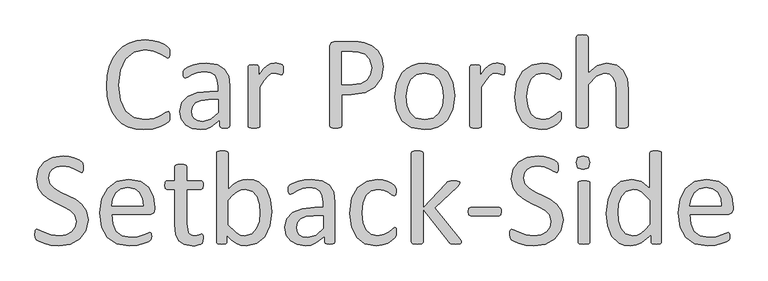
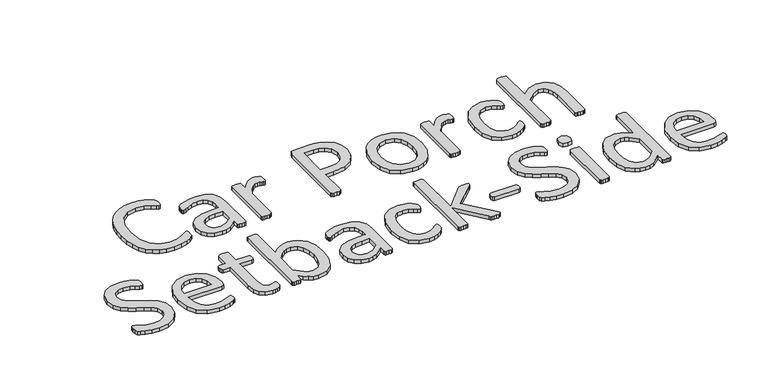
"""IFC4 building model written with IfcOpenShell, lengths in millimetres: proxy geometry, Marker-Setback Bldg Distance : Setback-Car Porch-Side."""

from ifc_helpers import new_model, si_unit, origin, origin_with_axes, place, context, project, spatial, polyline, outline, extrude, source, transform, mapped, element, save


def generic_models_6b0d4a80(model_context):
    return source(origin(), model_context, "Body", "SweptSolid", [
        extrude(outline(polyline([(3352.0395191, 73.9609654), (3351.8887316, 69.5579718), (3351.3458968, 66.2708053), (3350.3205421, 63.7677336), (3348.1190454, 61.1741894), (3341.5748699, 56.5299359), (3329.1801414, 50.4381229), (3312.1411593, 45.4319795), (3291.1213886, 43.3812701), (3272.4086658, 45.0323927), (3255.5958649, 49.9857605), (3240.9016277, 58.1584404), (3228.5445961, 69.4674993), (3218.6529392, 83.8601616), (3211.3548265, 101.2836516), (3206.8538211, 121.6701151), (3205.353486, 144.9516977), (3206.9819904, 168.8590482), (3211.8675039, 190.0371458), (3219.700912, 208.3352031), (3230.1731005, 223.6024326), (3243.1182033, 235.7257437), (3258.370354, 244.5920458), (3275.6656747, 250.0203941), (3294.7402874, 251.8298435), (3311.809427, 250.1711816), (3327.2199045, 245.9792904), (3339.795578, 240.1287373), (3347.3952656, 234.6702315), (3350.1395972, 231.4735375), (3351.1649519, 228.9704658), (3351.7982592, 225.5626694), (3352.0395191, 220.8882584), (3351.7077867, 215.7313276), (3350.742747, 212.1727437), (3349.2348725, 210.0617194), (3347.0936907, 209.3680971), (3340.8510902, 212.3838461), (3330.507071, 219.018494), (3315.1569084, 225.6531419), (3293.4736728, 228.6688909), (3268.4429558, 223.2103852), (3249.1723195, 207.1364428), (3236.7775909, 181.2613161), (3232.3745973, 146.3389422), (3236.596646, 111.8990882), (3248.6596421, 86.8985287), (3267.960436, 71.6991536), (3293.8958777, 66.5422227), (3315.2775383, 69.5278143), (3330.8388034, 76.1926197), (3341.393925, 82.857425), (3347.8777854, 85.8430166), (3349.8078648, 85.3604967), (3351.0744794, 83.5510473), (3351.7982592, 79.8718335), (3352.0395191, 73.9609654)])), origin_with_axes(), (0.0, 0.0, 1.0), 10.0),
        extrude(outline(polyline([(3491.0052347, 51.8856824), (3489.6783051, 49.0810358), (3486.0594063, 47.6937913), (3479.3041284, 47.2414289), (3472.4583781, 47.6937913), (3468.7490068, 49.0810358), (3467.6030222, 51.8856824), (3467.6030222, 65.758128), (3447.2768737, 49.7143431), (3435.7265549, 44.9645384), (3423.5127713, 43.3812701), (3403.5786701, 46.2462317), (3388.4094525, 54.5395416), (3378.6685831, 67.8691523), (3375.2004717, 85.8430166), (3379.9955127, 106.289795), (3393.7473283, 120.7050754), (3415.6718238, 129.2999602), (3444.8642744, 132.1649218), (3463.9841233, 132.1649218), (3463.9841233, 143.6850831), (3462.2953039, 158.7638283), (3456.8669556, 169.6808398), (3447.1864012, 176.2551727), (3432.5600184, 178.486827), (3415.8226112, 176.0742277), (3402.8548904, 170.7665094), (3393.5362258, 165.4587911), (3387.9872476, 163.0461919), (3385.8159083, 163.6794992), (3384.2175613, 165.6095786), (3383.2223641, 168.9269025), (3382.9207892, 173.3600536), (3383.4636241, 179.6931266), (3386.1174832, 184.1262777), (3393.3552809, 188.6499012), (3405.1770171, 193.1132098), (3419.8033999, 196.4606912), (3435.8170273, 197.7876208), (3461.4508941, 194.3798244), (3478.5501912, 184.4278526), (3488.0498006, 168.1729653), (3491.0052347, 145.4945325), (3491.0052347, 51.8856824)]), holes=[polyline([(3463.9841233, 112.8641279), (3442.5119902, 112.8641279), (3424.5984409, 111.084836), (3411.9624525, 105.8374327), (3404.5738673, 97.5139653), (3402.2215831, 86.3255364), (3403.9104025, 76.584667), (3408.9768609, 69.0754519), (3417.0892258, 64.280411), (3427.9157649, 62.682064), (3446.251519, 67.7786798), (3463.9841233, 83.3701024), (3463.9841233, 112.8641279)])]), origin_with_axes(), (0.0, 0.0, 1.0), 10.0),
        extrude(outline(polyline([(3614.5303152, 182.3469857), (3614.3795278, 176.8583225), (3613.776378, 173.2997386), (3612.6605508, 171.2791868), (3610.7907864, 170.5855645), (3607.8655099, 171.2791868), (3603.9751936, 172.6664313), (3599.1198377, 173.9933609), (3593.299442, 174.6266682), (3585.9410144, 172.9680062), (3578.3714843, 167.539658), (3570.0781744, 157.5273712), (3560.4880925, 142.2375235), (3560.4880925, 51.9459974), (3559.8246277, 49.8952881), (3557.6834459, 48.4477285), (3553.6121847, 47.5430038), (3546.9172218, 47.2414289), (3540.3428889, 47.5430038), (3536.1811553, 48.4477285), (3534.0399734, 49.8952881), (3533.4669811, 51.9459974), (3533.4669811, 189.2228935), (3533.949501, 191.2736029), (3535.9097379, 192.7814774), (3539.6794241, 193.6862021), (3545.7712372, 193.927462), (3551.7424203, 193.6862021), (3555.4216341, 192.7814774), (3557.321556, 191.2736029), (3557.8945483, 189.2228935), (3557.8945483, 169.1983199), (3568.32904, 183.4929704), (3577.5873895, 192.2084851), (3586.2124318, 196.5813212), (3594.8676315, 197.7876208), (3599.2706251, 197.5765184), (3604.4577135, 196.7622661), (3609.3432269, 195.4051791), (3612.4192909, 193.927462), (3613.6255905, 192.5402175), (3614.1684253, 190.8212405), (3614.4700003, 187.775334), (3614.5303152, 182.3469857)])), origin_with_axes(), (0.0, 0.0, 1.0), 10.0),
        extrude(outline(polyline([(3846.1398412, 189.5847834), (3841.1940128, 162.623987), (3827.0199923, 142.1470511), (3804.4018746, 129.0587003), (3772.4349348, 124.4446042), (3749.6358721, 124.4446042), (3749.6358721, 52.1872573), (3748.9422498, 50.0460755), (3746.740753, 48.5683585), (3742.6393343, 47.6334763), (3736.1253164, 47.2414289), (3729.6112985, 47.6334763), (3725.4495648, 48.5683585), (3723.248068, 50.015918), (3722.6147607, 52.1872573), (3722.6147607, 236.5701534), (3725.8717697, 245.3459831), (3733.1698823, 247.9696848), (3776.2347786, 247.9696848), (3788.7199796, 247.4268499), (3802.8638426, 245.1047232), (3819.5107772, 238.5002328), (3833.8657427, 226.5880241), (3842.9431473, 210.1823493), (3846.1398412, 189.5847834)]), holes=[polyline([(3819.1187299, 187.4737591), (3814.4744764, 207.1062853), (3802.9844725, 218.8375491), (3788.8406095, 223.75322), (3774.6062741, 224.8087322), (3749.6358721, 224.8087322), (3749.6358721, 147.6055568), (3774.0031243, 147.6055568), (3794.3594303, 150.5911484), (3807.9604584, 158.8543007), (3816.2839258, 171.4902892), (3819.1187299, 187.4737591)])]), origin_with_axes(), (0.0, 0.0, 1.0), 10.0),
        extrude(outline(polyline([(4012.1266682, 122.09232), (4007.6633596, 90.4571126), (3994.3035914, 65.5470256), (3984.2913046, 56.2359004), (3972.0473635, 49.2318233), (3957.6245437, 44.8439084), (3941.0756209, 43.3812701), (3911.2197054, 48.538201), (3889.9888322, 63.5264737), (3877.3226863, 87.4112061), (3873.1609526, 119.2575159), (3877.5639462, 150.8927233), (3890.833242, 175.7726528), (3900.8078319, 185.0460811), (3912.9989974, 191.9973827), (3927.4067384, 196.3400613), (3944.031055, 197.7876208), (3973.9171279, 192.6306899), (3995.1480011, 177.6424172), (4007.8744621, 153.7576849), (4012.1266682, 122.09232)]), holes=[polyline([(3985.1055568, 120.2828706), (3983.02469, 141.2423264), (3976.1789397, 158.5527258), (3963.3016913, 170.3141471), (3943.0057003, 174.6266682), (3923.7350639, 170.676037), (3910.4657682, 159.5177655), (3902.7152932, 142.448626), (3900.182064, 120.8860204), (3902.2629308, 99.8059346), (3909.1689961, 82.5558501), (3922.136717, 70.8547439), (3942.4025505, 66.5422227), (3961.6128718, 70.492854), (3974.9726401, 81.5606529), (3982.6628001, 98.5694775), (3985.1055568, 120.2828706)])]), origin_with_axes(), (0.0, 0.0, 1.0), 10.0),
        extrude(outline(polyline([(4127.9314312, 182.3469857), (4127.7806437, 176.8583225), (4127.1774939, 173.2997386), (4126.0616668, 171.2791868), (4124.1919024, 170.5855645), (4121.2666258, 171.2791868), (4117.3763096, 172.6664313), (4112.5209536, 173.9933609), (4106.700558, 174.6266682), (4099.3421303, 172.9680062), (4091.7726003, 167.539658), (4083.4792904, 157.5273712), (4073.8892085, 142.2375235), (4073.8892085, 51.9459974), (4073.2257437, 49.8952881), (4071.0845619, 48.4477285), (4067.0133007, 47.5430038), (4060.3183378, 47.2414289), (4053.7440049, 47.5430038), (4049.5822712, 48.4477285), (4047.4410894, 49.8952881), (4046.8680971, 51.9459974), (4046.8680971, 189.2228935), (4047.3506169, 191.2736029), (4049.3108538, 192.7814774), (4053.0805401, 193.6862021), (4059.1723532, 193.927462), (4065.1435363, 193.6862021), (4068.8227501, 192.7814774), (4070.722672, 191.2736029), (4071.2956643, 189.2228935), (4071.2956643, 169.1983199), (4081.730156, 183.4929704), (4090.9885055, 192.2084851), (4099.6135477, 196.5813212), (4108.2687475, 197.7876208), (4112.6717411, 197.5765184), (4117.8588294, 196.7622661), (4122.7443429, 195.4051791), (4125.8204069, 193.927462), (4127.0267065, 192.5402175), (4127.5695413, 190.8212405), (4127.8711162, 187.775334), (4127.9314312, 182.3469857)])), origin_with_axes(), (0.0, 0.0, 1.0), 10.0),
        extrude(outline(polyline([(4259.1768293, 74.98632), (4259.0260418, 70.7642714), (4258.483207, 67.7485223), (4257.5784823, 65.3057656), (4255.165883, 61.6868668), (4248.6820226, 55.8061562), (4238.3983184, 49.5635557), (4226.0035899, 45.1002471), (4212.1311443, 43.3812701), (4185.9544427, 48.3874135), (4166.8647513, 63.0137964), (4155.1334875, 86.5969538), (4151.0923838, 118.835311), (4156.0382122, 154.5719371), (4169.5789254, 179.0296618), (4189.8146014, 193.1735248), (4215.0262634, 197.7876208), (4227.7527243, 196.4305337), (4239.0919407, 192.8719499), (4248.3201327, 187.8054915), (4254.1706859, 182.8898206), (4256.6737576, 179.6629691), (4257.8197422, 177.0995824), (4258.422892, 173.9330459), (4258.5736795, 169.4998948), (4257.2165924, 161.4780024), (4253.9294259, 159.1860331), (4248.7121801, 161.5986324), (4241.26328, 166.9063507), (4230.316111, 172.214069), (4215.2072083, 174.6266682), (4199.336829, 171.1283993), (4187.6734196, 160.6335927), (4180.5034763, 143.4739807), (4178.1134952, 119.9812957), (4180.5864094, 96.6393981), (4187.884522, 79.8718335), (4199.7364158, 69.8293892), (4215.8103581, 66.5422227), (4230.8589458, 69.5881293), (4242.0775322, 76.2830921), (4250.0692672, 82.8875825), (4255.1357256, 85.8430166), (4256.9150175, 85.2700243), (4258.2117896, 83.3399449), (4258.9657268, 79.901991), (4259.1768293, 74.98632)])), origin_with_axes(), (0.0, 0.0, 1.0), 10.0),
        extrude(outline(polyline([(4413.5831799, 52.0063124), (4412.9197151, 49.955603), (4410.7785333, 48.477886), (4406.7072721, 47.5430038), (4400.1329392, 47.2414289), (4393.4379764, 47.5430038), (4389.3667152, 48.4477285), (4387.2255334, 49.8952881), (4386.5620686, 52.0063124), (4386.5620686, 132.5871266), (4384.7827766, 151.5260306), (4379.6258458, 163.9207591), (4370.8500161, 171.8823366), (4358.3949726, 174.6266682), (4340.0893759, 167.9015478), (4320.9393695, 148.1483917), (4320.9393695, 52.0063124), (4320.2759047, 49.8952881), (4318.1347229, 48.4477285), (4314.0634617, 47.5430038), (4307.3684989, 47.2414289), (4300.794166, 47.5430038), (4296.6324323, 48.477886), (4294.4912505, 49.955603), (4293.9182582, 52.0063124), (4293.9182582, 258.4644914), (4294.4912505, 260.6358307), (4296.6324323, 262.1738627), (4300.794166, 263.1087449), (4307.3684989, 263.4103198), (4314.0634617, 263.1087449), (4318.1347229, 262.1738627), (4320.2759047, 260.6056732), (4320.9393695, 258.4644914), (4320.9393695, 174.9885581), (4342.6527626, 192.1783276), (4364.6677306, 197.7876208), (4387.7080532, 193.0830523), (4402.8169559, 180.5073788), (4411.0801082, 162.0811522), (4413.5831799, 136.5679154), (4413.5831799, 52.0063124)])), origin_with_axes(), (0.0, 0.0, 1.0), 10.0),
        extrude(outline(polyline([(3162.8917395, -166.3294418), (3157.7046512, -191.6617337), (3143.2592133, -210.5101651), (3121.5156628, -222.1811139), (3094.6151813, -226.1015877), (3075.9175373, -224.5937131), (3060.5372172, -220.8843418), (3049.1980009, -216.3305608), (3042.8347704, -212.3196146), (3040.2110687, -207.6753611), (3039.366659, -199.7439411), (3039.6682339, -193.8632305), (3040.6031161, -190.0935442), (3042.1713056, -188.0729923), (3044.3728024, -187.5), (3050.5550879, -189.9125992), (3060.8387921, -195.1600026), (3075.9476948, -200.4677209), (3096.3643158, -202.9406351), (3112.4382582, -200.5883508), (3124.9536167, -193.9537029), (3133.0358241, -183.4588963), (3135.8706282, -169.2848758), (3131.8898394, -154.5680205), (3121.4251903, -143.8621114), (3106.6178625, -135.4180141), (3089.548723, -127.5770666), (3072.5700559, -118.740922), (3057.8230431, -107.3413906), (3047.2679215, -91.9007555), (3043.2268178, -70.7301973), (3047.8409138, -48.081922), (3060.6578472, -31.4349874), (3080.199901, -21.1814406), (3104.6877831, -17.6530143), (3118.2284963, -18.9497864), (3131.0454297, -22.3877403), (3141.7814963, -27.1827812), (3147.9637818, -31.4651449), (3149.8938612, -33.9682166), (3150.6779559, -36.1998708), (3151.1604758, -39.4870373), (3151.3112632, -44.4328657), (3151.0700033, -49.5596391), (3150.376381, -53.2991679), (3149.0494515, -55.5308222), (3147.0892146, -56.2546019), (3141.6608663, -53.9023177), (3132.6136192, -48.6247569), (3119.9474733, -43.2567236), (3103.5417985, -40.8139669), (3088.7947857, -43.0154637), (3078.420609, -48.8660168), (3072.2986385, -57.551374), (3070.2479291, -68.1969681), (3074.1684029, -82.7328785), (3084.633052, -93.52926), (3099.5006948, -102.1543023), (3116.4793619, -110.0555647), (3133.4881864, -118.8313944), (3148.3558292, -130.1102958), (3158.8807933, -145.4303009), (3162.8917395, -166.3294418)])), origin_with_axes(), (0.0, 0.0, 1.0), 10.0),
        extrude(outline(polyline([(3317.2980902, -141.7209296), (3314.3124987, -150.2253419), (3307.4667483, -152.7585711), (3216.9339623, -152.7585711), (3219.195774, -175.075114), (3226.7049891, -192.0839385), (3240.3964898, -203.00095), (3261.0242132, -206.8007938), (3278.1536677, -205.0215019), (3291.1817035, -201.0105557), (3300.1987932, -196.9996095), (3305.536669, -195.2203175), (3307.4064334, -195.7329949), (3308.7032054, -197.2408694), (3309.3666702, -200.045516), (3309.5777727, -204.4485096), (3309.4269852, -207.6753611), (3309.0349378, -210.1181178), (3308.2810006, -212.0783546), (3306.9239135, -213.7370166), (3302.0082426, -216.6622932), (3291.4229635, -220.8240269), (3276.3442183, -224.4730832), (3258.0687791, -226.1015877), (3228.604911, -221.2763892), (3207.3438803, -206.9214238), (3194.3158445, -183.0065339), (3189.9128509, -149.6221921), (3194.5269469, -117.0521025), (3207.8264002, -92.5642203), (3228.8160135, -77.0934278), (3256.3799597, -71.695237), (3284.1248508, -76.9124828), (3302.9732823, -90.9658733), (3313.8299788, -111.6840692), (3317.2980902, -137.0766761), (3317.2980902, -141.7209296)]), holes=[polyline([(3290.2769788, -133.4577773), (3288.3242813, -115.747791), (3281.6217791, -102.3050897), (3270.3353383, -93.8232956), (3254.6308252, -90.9960308), (3238.5568829, -94.4942997), (3227.006564, -103.8129642), (3219.7989238, -117.3536774), (3216.9339623, -133.4577773), (3290.2769788, -133.4577773)])]), origin_with_axes(), (0.0, 0.0, 1.0), 10.0),
        extrude(outline(polyline([(3429.2426944, -208.3689833), (3428.6395446, -215.9083559), (3426.7999377, -220.0097746), (3423.1207239, -222.4826888), (3417.5415882, -224.3826107), (3410.8767828, -225.6190678), (3403.8500875, -226.1015877), (3385.4841759, -223.1763111), (3372.9688174, -214.3401664), (3365.8516497, -199.3518937), (3363.6199954, -177.9099181), (3363.6199954, -94.8561896), (3345.2842413, -94.8561896), (3341.7558149, -92.5943778), (3340.4590428, -85.2661077), (3340.8209327, -80.7726416), (3341.7558149, -77.7267351), (3343.2938469, -76.0379156), (3345.4048712, -75.5553958), (3363.6199954, -75.5553958), (3363.6199954, -41.9599515), (3364.1929877, -39.9393996), (3366.3341695, -38.2807377), (3370.4959032, -37.255383), (3377.0702361, -36.9538081), (3383.765199, -37.255383), (3387.8364602, -38.2807377), (3389.977642, -39.9393996), (3390.6411068, -41.9599515), (3390.6411068, -75.5553958), (3424.417496, -75.5553958), (3426.4380478, -76.0379156), (3427.9760798, -77.7267351), (3428.9411195, -80.7726416), (3429.2426944, -85.2661077), (3427.9157649, -92.5943778), (3424.417496, -94.8561896), (3390.6411068, -94.8561896), (3390.6411068, -173.5069245), (3394.652053, -195.4917349), (3400.2538068, -201.07841), (3409.0371759, -202.9406351), (3415.0385165, -202.2470128), (3419.7129275, -200.7994533), (3423.2413538, -199.3217362), (3425.8650555, -198.5979565), (3428.2776547, -200.4677209), (3428.9411195, -203.4834699), (3429.2426944, -208.3689833)])), origin_with_axes(), (0.0, 0.0, 1.0), 10.0),
        extrude(outline(polyline([(3587.5092039, -147.0889629), (3583.6490451, -179.9606274), (3572.2796712, -204.8707145), (3553.8232871, -220.6430819), (3528.7624126, -226.1015877), (3516.6994165, -224.7746581), (3505.84272, -220.462137), (3495.2272833, -212.9529219), (3484.0086969, -202.0359104), (3484.0086969, -217.7781203), (3483.3452321, -219.7986722), (3481.2040503, -221.1557592), (3477.5248365, -221.939854), (3471.8853858, -222.2414289), (3466.3364076, -221.939854), (3462.5667213, -221.0954443), (3460.6064844, -219.6177272), (3460.1239646, -217.4765454), (3460.1239646, -11.0183664), (3460.6969569, -8.8470271), (3462.8381387, -7.3089951), (3466.9998724, -6.3741129), (3473.5742053, -6.072538), (3480.2691681, -6.3741129), (3484.3404293, -7.3089951), (3486.4816111, -8.8771846), (3487.1450759, -11.0183664), (3487.1450759, -94.7958746), (3498.8763397, -84.0296506), (3510.0044536, -76.9124828), (3520.8913076, -72.9316941), (3532.3813115, -71.695237), (3546.1406665, -73.2181903), (3557.7437609, -77.7870501), (3574.8732154, -94.1022523), (3584.4934548, -118.0774572), (3587.5092039, -147.0889629)]), holes=[polyline([(3560.4880925, -150.044397), (3558.919903, -129.507146), (3553.4312398, -111.8650142), (3543.0872206, -99.5306006), (3527.0132782, -94.8561896), (3517.6041412, -96.2132767), (3508.1648467, -100.7369002), (3498.1827174, -108.8492651), (3487.1450759, -121.3344661), (3487.1450759, -177.3670832), (3506.6268147, -196.3964597), (3516.1113454, -201.3045912), (3525.9879235, -202.9406351), (3541.8809209, -198.326539), (3552.6169875, -186.1429129), (3558.6183281, -169.1340884), (3560.4880925, -150.044397)])]), origin_with_axes(), (0.0, 0.0, 1.0), 10.0),
        extrude(outline(polyline([(3734.195237, -217.5971754), (3732.8683074, -220.401822), (3729.2494086, -221.7890665), (3722.4941307, -222.2414289), (3715.6483804, -221.7890665), (3711.9390091, -220.401822), (3710.7930245, -217.5971754), (3710.7930245, -203.7247298), (3690.466876, -219.7685147), (3678.9165572, -224.5183194), (3666.7027736, -226.1015877), (3646.7686724, -223.2366261), (3631.5994548, -214.9433162), (3621.8585854, -201.6137055), (3618.390474, -183.6398412), (3623.185515, -163.1930628), (3636.9373306, -148.7777824), (3658.8618261, -140.1828976), (3688.0542767, -137.317936), (3707.1741256, -137.317936), (3707.1741256, -125.7977747), (3705.4853062, -110.7190295), (3700.0569579, -99.802018), (3690.3764035, -93.2276851), (3675.7500207, -90.9960308), (3659.0126135, -93.4086301), (3646.0448927, -98.7163484), (3636.7262281, -104.0240667), (3631.1772499, -106.4366659), (3629.0059106, -105.8033586), (3627.4075636, -103.8732792), (3626.4123664, -100.5559553), (3626.1107915, -96.1228042), (3626.6536264, -89.7897312), (3629.3074855, -85.3565801), (3636.5452832, -80.8329566), (3648.3670194, -76.369648), (3662.9934022, -73.0221666), (3679.0070296, -71.695237), (3704.6408964, -75.1030334), (3721.7401935, -85.0550052), (3731.2398029, -101.3098925), (3734.195237, -123.9883253), (3734.195237, -217.5971754)]), holes=[polyline([(3707.1741256, -156.6187299), (3685.7019925, -156.6187299), (3667.7884432, -158.3980218), (3655.1524548, -163.6454251), (3647.7638696, -171.9688925), (3645.4115854, -183.1573214), (3647.1004048, -192.8981908), (3652.1668632, -200.4074059), (3660.2792281, -205.2024468), (3671.1057672, -206.8007938), (3689.4415213, -201.704178), (3707.1741256, -186.1127554), (3707.1741256, -156.6187299)])]), origin_with_axes(), (0.0, 0.0, 1.0), 10.0),
        extrude(outline(polyline([(3877.0211114, -194.4965378), (3876.8703239, -198.7185864), (3876.3274891, -201.7343355), (3875.4227644, -204.1770922), (3873.0101651, -207.795991), (3866.5263047, -213.6767016), (3856.2426005, -219.9193021), (3843.847872, -224.3826107), (3829.9754264, -226.1015877), (3803.7987248, -221.0954443), (3784.7090334, -206.4690614), (3772.9777696, -182.885904), (3768.9366659, -150.6475468), (3773.8824943, -114.9109207), (3787.4232075, -90.453196), (3807.6588835, -76.309333), (3832.8705455, -71.695237), (3845.5970064, -73.0523241), (3856.9362228, -76.6109079), (3866.1644148, -81.6773663), (3872.014968, -86.5930372), (3874.5180397, -89.8198887), (3875.6640243, -92.3832754), (3876.2671741, -95.5498119), (3876.4179616, -99.982963), (3875.0608745, -108.0048554), (3871.773708, -110.2968247), (3866.5564622, -107.8842254), (3859.1075621, -102.5765071), (3848.1603931, -97.2687888), (3833.0514904, -94.8561896), (3817.1811111, -98.3544585), (3805.5177017, -108.8492651), (3798.3477584, -126.0088771), (3795.9577773, -149.5015621), (3798.4306915, -172.8434597), (3805.7288041, -189.6110243), (3817.5806979, -199.6534686), (3833.6546402, -202.9406351), (3848.7032279, -199.8947285), (3859.9218143, -193.1997657), (3867.9135493, -186.5952753), (3872.9800077, -183.6398412), (3874.7592996, -184.2128336), (3876.0560717, -186.1429129), (3876.8100089, -189.5808668), (3877.0211114, -194.4965378)])), origin_with_axes(), (0.0, 0.0, 1.0), 10.0),
        extrude(outline(polyline([(4027.5673033, -217.3559155), (4026.933996, -219.4970973), (4024.8531291, -221.0351293), (4020.7818679, -221.939854), (4014.1170626, -222.2414289), (4007.2411548, -222.000169), (4002.6572162, -221.2462317), (3999.6414672, -219.7383572), (3997.5304429, -217.3559155), (3938.7836516, -141.4193547), (3938.7836516, -217.5368604), (3938.1201868, -219.5875697), (3935.979005, -221.0351293), (3931.9077438, -221.939854), (3925.212781, -222.2414289), (3918.6384481, -221.939854), (3914.4767144, -221.0049718), (3912.3355326, -219.5272548), (3911.7625403, -217.4765454), (3911.7625403, -11.0183664), (3912.3355326, -8.8470271), (3914.4767144, -7.3089951), (3918.6384481, -6.3741129), (3925.212781, -6.072538), (3931.9077438, -6.3741129), (3935.979005, -7.3089951), (3938.1201868, -8.8771846), (3938.7836516, -11.0786814), (3938.7836516, -137.9210858), (3992.4639845, -80.8631141), (3995.1480011, -78.3600424), (3998.52564, -76.7013804), (4003.1698936, -75.7966557), (4009.653754, -75.5553958), (4016.2884019, -75.7966557), (4020.600923, -76.5505929), (4022.9833647, -77.90768), (4023.7071445, -80.1393343), (4022.6516323, -83.7883906), (4019.123206, -88.0405968), (3965.804763, -137.7401409), (4023.7674595, -210.1784328), (4026.692736, -214.3703239), (4027.5673033, -217.3559155)])), origin_with_axes(), (0.0, 0.0, 1.0), 10.0),
        extrude(outline(polyline([(4120.2111137, -146.908018), (4118.7937116, -154.5077055), (4114.6621354, -156.6187299), (4048.6775465, -156.6187299), (4044.4253404, -154.4473906), (4043.0079383, -146.908018), (4044.4253404, -139.4289604), (4048.6775465, -137.317936), (4114.6621354, -137.317936), (4116.9541047, -137.7401409), (4118.7032391, -139.3686454), (4119.8190663, -142.3843944), (4120.2111137, -146.908018)])), origin_with_axes(), (0.0, 0.0, 1.0), 10.0),
        extrude(outline(polyline([(4263.036988, -166.3294418), (4257.8498997, -191.6617337), (4243.4044618, -210.5101651), (4221.6609113, -222.1811139), (4194.7604298, -226.1015877), (4176.0627858, -224.5937131), (4160.6824657, -220.8843418), (4149.3432494, -216.3305608), (4142.9800189, -212.3196146), (4140.3563172, -207.6753611), (4139.5119075, -199.7439411), (4139.8134824, -193.8632305), (4140.7483646, -190.0935442), (4142.3165541, -188.0729923), (4144.5180509, -187.5), (4150.7003364, -189.9125992), (4160.9840406, -195.1600026), (4176.0929433, -200.4677209), (4196.5095643, -202.9406351), (4212.5835067, -200.5883508), (4225.0988652, -193.9537029), (4233.1810726, -183.4588963), (4236.0158767, -169.2848758), (4232.0350879, -154.5680205), (4221.5704388, -143.8621114), (4206.763111, -135.4180141), (4189.6939715, -127.5770666), (4172.7153044, -118.740922), (4157.9682916, -107.3413906), (4147.41317, -91.9007555), (4143.3720663, -70.7301973), (4147.9861623, -48.081922), (4160.8030957, -31.4349874), (4180.3451495, -21.1814406), (4204.8330316, -17.6530143), (4218.3737448, -18.9497864), (4231.1906782, -22.3877403), (4241.9267448, -27.1827812), (4248.1090303, -31.4651449), (4250.0391097, -33.9682166), (4250.8232044, -36.1998708), (4251.3057243, -39.4870373), (4251.4565117, -44.4328657), (4251.2152518, -49.5596391), (4250.5216295, -53.2991679), (4249.1947, -55.5308222), (4247.2344631, -56.2546019), (4241.8061148, -53.9023177), (4232.7588677, -48.6247569), (4220.0927218, -43.2567236), (4203.687047, -40.8139669), (4188.9400342, -43.0154637), (4178.5658575, -48.8660168), (4172.443887, -57.551374), (4170.3931776, -68.1969681), (4174.3136514, -82.7328785), (4184.7783005, -93.52926), (4199.6459433, -102.1543023), (4216.6246104, -110.0555647), (4233.6334349, -118.8313944), (4248.5010777, -130.1102958), (4259.0260418, -145.4303009), (4263.036988, -166.3294418)])), origin_with_axes(), (0.0, 0.0, 1.0), 10.0),
        extrude(outline(polyline([(4324.7995283, -32.9127044), (4321.4822044, -45.2471179), (4309.1779483, -48.5342844), (4297.1752671, -45.3375904), (4293.9182582, -33.2745943), (4297.2355821, -20.9401807), (4309.5398382, -17.6530143), (4321.5425193, -20.8497082), (4324.7995283, -32.9127044)])), origin_with_axes(), (0.0, 0.0, 1.0), 10.0),
        extrude(outline(polyline([(4324.7995283, -217.5368604), (4324.1360635, -219.5875697), (4321.9948817, -221.0351293), (4317.9236205, -221.939854), (4311.2286576, -222.2414289), (4304.6543247, -221.939854), (4300.4925911, -221.0351293), (4298.3514093, -219.5875697), (4297.7784169, -217.5368604), (4297.7784169, -80.2599643), (4298.3514093, -78.2997274), (4300.4925911, -76.7616954), (4304.6543247, -75.8569707), (4311.2286576, -75.5553958), (4317.9236205, -75.8569707), (4321.9948817, -76.7616954), (4324.1360635, -78.2997274), (4324.7995283, -80.2599643), (4324.7995283, -217.5368604)])), origin_with_axes(), (0.0, 0.0, 1.0), 10.0),
        extrude(outline(polyline([(4490.7863553, -217.4162304), (4490.213363, -219.6177272), (4488.2531261, -221.0954443), (4484.6040697, -221.939854), (4479.085249, -222.2414289), (4473.3553258, -221.939854), (4469.615797, -221.1557592), (4467.5047727, -219.7986722), (4466.8413079, -217.7781203), (4466.8413079, -200.6486658), (4444.4342926, -219.3764673), (4432.2732846, -224.4203076), (4419.0115282, -226.1015877), (4405.0486102, -224.6012525), (4393.3173464, -220.1002471), (4376.0974194, -203.8755173), (4366.4470225, -179.80984), (4363.401116, -150.7078618), (4367.2009598, -117.9869847), (4378.4195462, -93.0768977), (4396.8156153, -77.2442152), (4422.2082222, -71.695237), (4444.1327177, -77.0934278), (4463.7652439, -92.9261102), (4463.7652439, -11.0786814), (4464.3382362, -8.967657), (4466.539733, -7.3994675), (4470.7014667, -6.4645853), (4477.0948546, -6.072538), (4483.7898175, -6.4645853), (4487.8610787, -7.3994675), (4490.0625755, -8.9374996), (4490.7863553, -11.0183664), (4490.7863553, -217.4162304)]), holes=[polyline([(4463.7652439, -120.4297414), (4444.4041351, -101.400365), (4434.8592894, -96.4922335), (4424.9223963, -94.8561896), (4408.9389264, -99.4401281), (4398.2631748, -111.5332818), (4392.2919917, -128.5421063), (4390.4222273, -147.8127427), (4391.9904168, -168.1992062), (4397.4489226, -185.8714955), (4407.7627843, -198.2662241), (4423.8970416, -202.9406351), (4433.3664936, -201.583548), (4442.7153156, -197.0900819), (4452.6974449, -188.9475595), (4463.7652439, -176.5829885), (4463.7652439, -120.4297414)])]), origin_with_axes(), (0.0, 0.0, 1.0), 10.0),
        extrude(outline(polyline([(4656.7731822, -141.7209296), (4653.7875907, -150.2253419), (4646.9418404, -152.7585711), (4556.4090543, -152.7585711), (4558.6708661, -175.075114), (4566.1800812, -192.0839385), (4579.8715818, -203.00095), (4600.4993052, -206.8007938), (4617.6287597, -205.0215019), (4630.6567956, -201.0105557), (4639.6738852, -196.9996095), (4645.011761, -195.2203175), (4646.8815254, -195.7329949), (4648.1782975, -197.2408694), (4648.8417623, -200.045516), (4649.0528647, -204.4485096), (4648.9020773, -207.6753611), (4648.5100299, -210.1181178), (4647.7560926, -212.0783546), (4646.3990056, -213.7370166), (4641.4833346, -216.6622932), (4630.8980555, -220.8240269), (4615.8193103, -224.4730832), (4597.5438712, -226.1015877), (4568.0800031, -221.2763892), (4546.8189724, -206.9214238), (4533.7909365, -183.0065339), (4529.3879429, -149.6221921), (4534.002039, -117.0521025), (4547.3014922, -92.5642203), (4568.2911055, -77.0934278), (4595.8550517, -71.695237), (4623.5999428, -76.9124828), (4642.4483743, -90.9658733), (4653.3050708, -111.6840692), (4656.7731822, -137.0766761), (4656.7731822, -141.7209296)]), holes=[polyline([(4629.7520709, -133.4577773), (4627.7993734, -115.747791), (4621.0968711, -102.3050897), (4609.8104304, -93.8232956), (4594.1059173, -90.9960308), (4578.0319749, -94.4942997), (4566.4816561, -103.8129642), (4559.2740159, -117.3536774), (4556.4090543, -133.4577773), (4629.7520709, -133.4577773)])]), origin_with_axes(), (0.0, 0.0, 1.0), 10.0),
    ])


if __name__ == "__main__":
    model = new_model("IFC4")
    model_context = context("Model", 3, world=origin())
    ifc_project = project(units=[si_unit("LENGTHUNIT", "METRE", prefix="MILLI")], contexts=[model_context])
    site = spatial("IfcSite", under=ifc_project)
    building = spatial("IfcBuilding", under=site)
    placement = place(None, origin())
    generic_models_shape = generic_models_6b0d4a80(model_context)
    element("IfcBuildingElementProxy", 1, Name="Marker-Setback Bldg Distance : Setback-Car Porch-Side", ObjectType="Marker-Setback Bldg Distance : Setback-Car Porch-Side", at=placement, inside=building, context=model_context, shape_type="MappedRepresentation", body=[
        mapped(generic_models_shape, transform((0.0, 0.0, 0.0), x_axis=(1.0, 0.0, 0.0), y_axis=(0.0, 1.0, 0.0), z_axis=(0.0, 0.0, 1.0))),
    ])
    save(model, "model.ifc")
